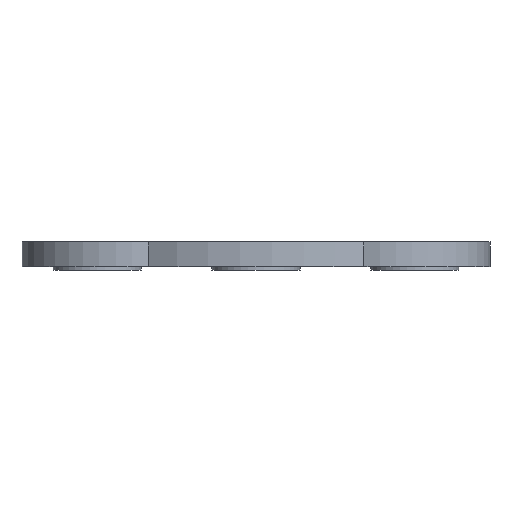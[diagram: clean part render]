
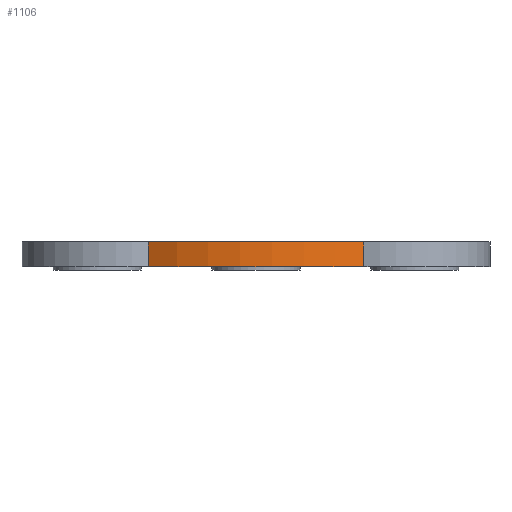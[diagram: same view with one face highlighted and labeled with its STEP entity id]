
A CAD part, front view. The second image highlights one B-rep face of the part: STEP entity #1106.
In plain terms, the highlighted cylindrical face has radius 28.7 mm (diameter 57.4 mm), a partial arc.
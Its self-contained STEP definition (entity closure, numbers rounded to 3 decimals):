
#19 = EDGE_CURVE ( 'NONE', #1210, #998, #1172, .T. ) ;
#24 = CYLINDRICAL_SURFACE ( 'NONE', #491, 28.7 ) ;
#75 = EDGE_LOOP ( 'NONE', ( #141, #1486, #962, #89 ) ) ;
#89 = ORIENTED_EDGE ( 'NONE', *, *, #928, .T. ) ;
#117 = CARTESIAN_POINT ( 'NONE',  ( 1266.99, 1102.428, 1992.5 ) ) ;
#141 = ORIENTED_EDGE ( 'NONE', *, *, #1346, .T. ) ;
#166 = CARTESIAN_POINT ( 'NONE',  ( 1266.99, 1102.428, 1992.5 ) ) ;
#186 = AXIS2_PLACEMENT_3D ( 'NONE', #117, #1243, #1208 ) ;
#395 = DIRECTION ( 'NONE',  ( 0., 0., -1. ) ) ;
#459 = CARTESIAN_POINT ( 'NONE',  ( 1282.276, 1078.138, 1992.5 ) ) ;
#491 = AXIS2_PLACEMENT_3D ( 'NONE', #166, #395, #758 ) ;
#532 = CARTESIAN_POINT ( 'NONE',  ( 1266.99, 1102.428, 1989. ) ) ;
#556 = CARTESIAN_POINT ( 'NONE',  ( 1251.704, 1078.138, 1992.5 ) ) ;
#578 = CARTESIAN_POINT ( 'NONE',  ( 1282.276, 1078.138, 1992.5 ) ) ;
#758 = DIRECTION ( 'NONE',  ( -1., 0., 0. ) ) ;
#824 = LINE ( 'NONE', #556, #1008 ) ;
#858 = VERTEX_POINT ( 'NONE', #1071 ) ;
#928 = EDGE_CURVE ( 'NONE', #1210, #1340, #1033, .T. ) ;
#962 = ORIENTED_EDGE ( 'NONE', *, *, #19, .F. ) ;
#998 = VERTEX_POINT ( 'NONE', #1479 ) ;
#1008 = VECTOR ( 'NONE', #1322, 1000. ) ;
#1033 = CIRCLE ( 'NONE', #186, 28.7 ) ;
#1071 = CARTESIAN_POINT ( 'NONE',  ( 1251.704, 1078.138, 1989. ) ) ;
#1106 = ADVANCED_FACE ( 'NONE', ( #1270 ), #24, .T. ) ;
#1140 = DIRECTION ( 'NONE',  ( -1., 0., 0. ) ) ;
#1143 = EDGE_CURVE ( 'NONE', #998, #858, #1214, .T. ) ;
#1164 = CARTESIAN_POINT ( 'NONE',  ( 1251.704, 1078.138, 1992.5 ) ) ;
#1172 = LINE ( 'NONE', #459, #1423 ) ;
#1208 = DIRECTION ( 'NONE',  ( -1., 0., 0. ) ) ;
#1210 = VERTEX_POINT ( 'NONE', #578 ) ;
#1214 = CIRCLE ( 'NONE', #1391, 28.7 ) ;
#1243 = DIRECTION ( 'NONE',  ( 0., 0., -1. ) ) ;
#1270 = FACE_OUTER_BOUND ( 'NONE', #75, .T. ) ;
#1296 = DIRECTION ( 'NONE',  ( 0., 0., -1. ) ) ;
#1322 = DIRECTION ( 'NONE',  ( 0., 0., -1. ) ) ;
#1340 = VERTEX_POINT ( 'NONE', #1164 ) ;
#1346 = EDGE_CURVE ( 'NONE', #1340, #858, #824, .T. ) ;
#1376 = DIRECTION ( 'NONE',  ( 0., 0., -1. ) ) ;
#1391 = AXIS2_PLACEMENT_3D ( 'NONE', #532, #1376, #1140 ) ;
#1423 = VECTOR ( 'NONE', #1296, 1000. ) ;
#1479 = CARTESIAN_POINT ( 'NONE',  ( 1282.276, 1078.138, 1989. ) ) ;
#1486 = ORIENTED_EDGE ( 'NONE', *, *, #1143, .F. ) ;
